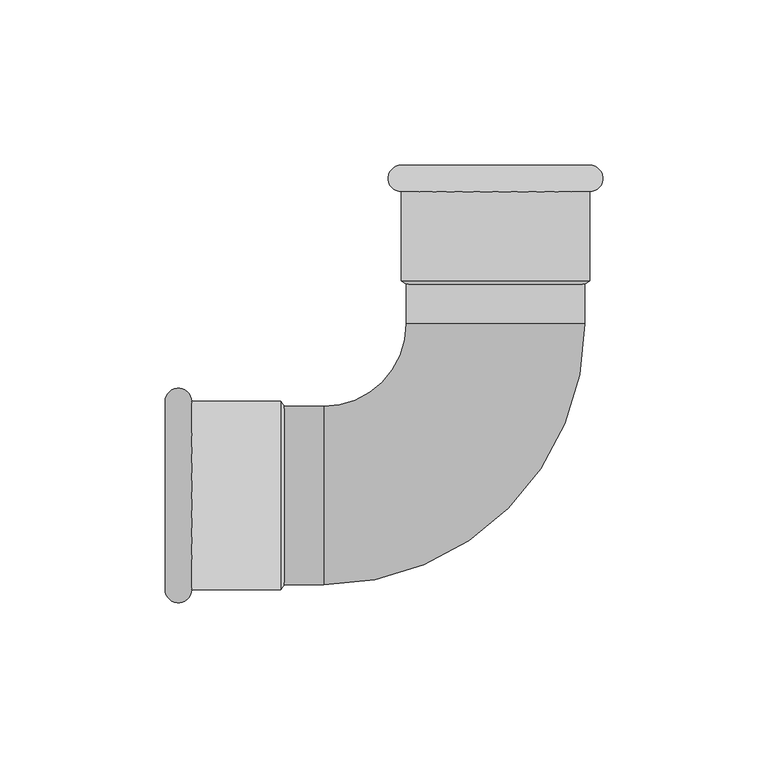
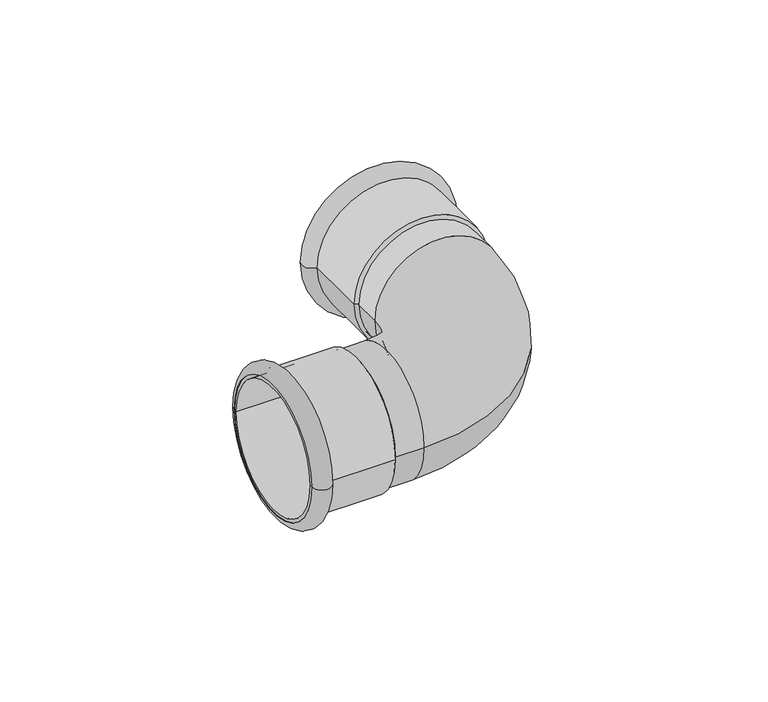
"""IFC4 building model written with IfcOpenShell, lengths in millimetres: pipe fitting geometry, NLRS_50_PIF_UN_Geberit Mapress Therm bocht_PRO_3207561 : DN10-100 / d12-108 - OD."""

from ifc_helpers import new_model, si_unit, point, frame, origin, place, context, project, spatial, polyline, circle_curve, ellipse_curve, trimmed, source, transform, mapped, element, save
from ifc_brep_helpers import plane_surface, cylinder_surface, revolved_surface, advanced_brep


def pipe_fitting_7fbc6128(model_context):
    return source(origin(), model_context, "Body", "AdvancedBrep", [
        advanced_brep(
        [(28.5, 100.0, 0.0), (-28.5, 100.0, 0.0), (-28.5, 92.0, 0.0), (28.5, 92.0, 0.0)],
        [
            (0, 1, circle_curve(frame((0.0, 100.0, 0.0), z_axis=(0.0, 1.0, 0.0), x_axis=(-1.0, 0.0, 0.0)), 28.5)),
            (1, 2),
            (2, 3, circle_curve(frame((0.0, 92.0, 0.0), z_axis=(0.0, -1.0, 0.0), x_axis=(-1.0, 0.0, 0.0)), 28.5)),
            (3, 0),
            (1, 0, circle_curve(frame((0.0, 100.0, 0.0), z_axis=(0.0, 1.0, 0.0), x_axis=(-1.0, 0.0, 0.0)), 28.5)),
            (3, 2, circle_curve(frame((0.0, 92.0, 0.0), z_axis=(0.0, -1.0, 0.0), x_axis=(-1.0, 0.0, 0.0)), 28.5)),
            (2, 1, circle_curve(frame((-28.5, 96.0, 0.0), z_axis=(0.0, 0.0, -1.0), x_axis=(0.0, 1.0, 0.0)), 4.0)),
            (0, 3, circle_curve(frame((28.5, 96.0, 0.0), z_axis=(0.0, 0.0, -1.0), x_axis=(0.0, 1.0, 0.0)), 4.0)),
        ],
        [
            revolved_surface(polyline([(-28.5, 92.0, 0.0), (-28.5, 100.0, 0.0)]), (0.0, 65.0, 0.0), (0.0, -1.0, 0.0)),
            revolved_surface(trimmed(ellipse_curve(frame((-28.5, 96.0, 0.0), z_axis=(0.0, 0.0, 1.0), x_axis=(0.0, 1.0, 0.0)), 4.0, 4.0), [point((-28.5, 100.0, 0.0))], [point((-28.5, 92.0, 0.0))], True, "CARTESIAN"), (0.0, 65.0, 0.0), (0.0, -1.0, 0.0)),
        ],
        [
            (0, [[1, 2, 3, 4]]),
            (0, [[5, -4, 6, -2]]),
            (1, [[-3, 7, -1, 8]]),
            (1, [[-6, -8, -5, -7]]),
        ],
    ),
        advanced_brep(
        [(27.0, 100.0, 0.0), (-27.0, 100.0, 0.0), (-27.0, 64.0, 0.0), (27.0, 64.0, 0.0), (28.5, 100.0, 0.0), (-28.5, 100.0, 0.0), (28.5, 65.0, 0.0), (-28.5, 65.0, 0.0)],
        [
            (0, 1, circle_curve(frame((0.0, 100.0, 0.0), z_axis=(0.0, 1.0, 0.0), x_axis=(-1.0, 0.0, 0.0)), 27.0)),
            (1, 2),
            (2, 3, circle_curve(frame((0.0, 64.0, 0.0), z_axis=(0.0, -1.0, 0.0), x_axis=(-1.0, 0.0, 0.0)), 27.0)),
            (3, 0),
            (1, 0, circle_curve(frame((0.0, 100.0, 0.0), z_axis=(0.0, 1.0, 0.0), x_axis=(-1.0, 0.0, 0.0)), 27.0)),
            (3, 2, circle_curve(frame((0.0, 64.0, 0.0), z_axis=(0.0, -1.0, 0.0), x_axis=(-1.0, 0.0, 0.0)), 27.0)),
            (4, 5, circle_curve(frame((0.0, 100.0, 0.0), z_axis=(0.0, 1.0, 0.0), x_axis=(-1.0, 0.0, 0.0)), 28.5)),
            (5, 1),
            (0, 4),
            (5, 4, circle_curve(frame((0.0, 100.0, 0.0), z_axis=(0.0, 1.0, 0.0), x_axis=(-1.0, 0.0, 0.0)), 28.5)),
            (6, 7, circle_curve(frame((0.0, 65.0, 0.0), z_axis=(0.0, 1.0, 0.0), x_axis=(-1.0, 0.0, 0.0)), 28.5)),
            (7, 5),
            (4, 6),
            (7, 6, circle_curve(frame((0.0, 65.0, 0.0), z_axis=(0.0, 1.0, 0.0), x_axis=(-1.0, 0.0, 0.0)), 28.5)),
            (2, 7),
            (6, 3),
        ],
        [
            revolved_surface(polyline([(-27.0, 64.0, 0.0), (-27.0, 100.0, 0.0)]), (0.0, 65.0, 0.0), (0.0, -1.0, 0.0)),
            plane_surface(frame((0.0, 100.0, 0.0), z_axis=(0.0, 1.0, 0.0), x_axis=(-1.0, 0.0, 0.0))),
            cylinder_surface(frame((0.0, 65.0, 0.0), z_axis=(0.0, -1.0, 0.0), x_axis=(-1.0, 0.0, 0.0)), 28.5),
            revolved_surface(polyline([(-28.5, 65.0, 0.0), (-27.0, 64.0, 0.0)]), (0.0, 65.0, 0.0), (0.0, -1.0, 0.0)),
        ],
        [
            (0, [[1, 2, 3, 4]]),
            (0, [[5, -4, 6, -2]]),
            (1, [[7, 8, -1, 9]]),
            (1, [[10, -9, -5, -8]]),
            (2, [[11, 12, -7, 13]]),
            (2, [[14, -13, -10, -12]]),
            (3, [[-3, 15, -11, 16]]),
            (3, [[-6, -16, -14, -15]]),
        ],
    ),
        advanced_brep(
        [(-100.0, 28.5, 0.0), (-100.0, -28.5, 0.0), (-92.0, -28.5, 0.0), (-92.0, 28.5, 0.0)],
        [
            (0, 1, circle_curve(frame((-100.0, 0.0, 0.0), z_axis=(-1.0, 0.0, 0.0), x_axis=(0.0, -1.0, 0.0)), 28.5)),
            (1, 2),
            (2, 3, circle_curve(frame((-92.0, 0.0, 0.0), z_axis=(1.0, 0.0, 0.0), x_axis=(0.0, -1.0, 0.0)), 28.5)),
            (3, 0),
            (1, 0, circle_curve(frame((-100.0, 0.0, 0.0), z_axis=(-1.0, 0.0, 0.0), x_axis=(0.0, -1.0, 0.0)), 28.5)),
            (3, 2, circle_curve(frame((-92.0, 0.0, 0.0), z_axis=(1.0, 0.0, 0.0), x_axis=(0.0, -1.0, 0.0)), 28.5)),
            (2, 1, circle_curve(frame((-96.0, -28.5, 0.0), z_axis=(0.0, 0.0, -1.0), x_axis=(-1.0, 0.0, 0.0)), 4.0)),
            (0, 3, circle_curve(frame((-96.0, 28.5, 0.0), z_axis=(0.0, 0.0, -1.0), x_axis=(-1.0, 0.0, 0.0)), 4.0)),
        ],
        [
            revolved_surface(polyline([(-92.0, -28.5, 0.0), (-100.0, -28.5, 0.0)]), (-65.0, 0.0, 0.0), (1.0, 0.0, 0.0)),
            revolved_surface(trimmed(ellipse_curve(frame((-96.0, -28.5, 0.0), z_axis=(0.0, 0.0, 1.0), x_axis=(-1.0, 0.0, 0.0)), 4.0, 4.0), [point((-100.0, -28.5, 0.0))], [point((-92.0, -28.5, 0.0))], True, "CARTESIAN"), (-65.0, 0.0, 0.0), (1.0, 0.0, 0.0)),
        ],
        [
            (0, [[1, 2, 3, 4]]),
            (0, [[5, -4, 6, -2]]),
            (1, [[-3, 7, -1, 8]]),
            (1, [[-6, -8, -5, -7]]),
        ],
    ),
        advanced_brep(
        [(-100.0, 27.0, 0.0), (-100.0, -27.0, 0.0), (-64.0, -27.0, 0.0), (-64.0, 27.0, 0.0), (-100.0, 28.5, 0.0), (-100.0, -28.5, 0.0), (-65.0, 28.5, 0.0), (-65.0, -28.5, 0.0)],
        [
            (0, 1, circle_curve(frame((-100.0, 0.0, 0.0), z_axis=(-1.0, 0.0, 0.0), x_axis=(0.0, -1.0, 0.0)), 27.0)),
            (1, 2),
            (2, 3, circle_curve(frame((-64.0, 0.0, 0.0), z_axis=(1.0, 0.0, 0.0), x_axis=(0.0, -1.0, 0.0)), 27.0)),
            (3, 0),
            (1, 0, circle_curve(frame((-100.0, 0.0, 0.0), z_axis=(-1.0, 0.0, 0.0), x_axis=(0.0, -1.0, 0.0)), 27.0)),
            (3, 2, circle_curve(frame((-64.0, 0.0, 0.0), z_axis=(1.0, 0.0, 0.0), x_axis=(0.0, -1.0, 0.0)), 27.0)),
            (4, 5, circle_curve(frame((-100.0, 0.0, 0.0), z_axis=(-1.0, 0.0, 0.0), x_axis=(0.0, -1.0, 0.0)), 28.5)),
            (5, 1),
            (0, 4),
            (5, 4, circle_curve(frame((-100.0, 0.0, 0.0), z_axis=(-1.0, 0.0, 0.0), x_axis=(0.0, -1.0, 0.0)), 28.5)),
            (6, 7, circle_curve(frame((-65.0, 0.0, 0.0), z_axis=(-1.0, 0.0, 0.0), x_axis=(0.0, -1.0, 0.0)), 28.5)),
            (7, 5),
            (4, 6),
            (7, 6, circle_curve(frame((-65.0, 0.0, 0.0), z_axis=(-1.0, 0.0, 0.0), x_axis=(0.0, -1.0, 0.0)), 28.5)),
            (2, 7),
            (6, 3),
        ],
        [
            revolved_surface(polyline([(-64.0, -27.0, 0.0), (-100.0, -27.0, 0.0)]), (-65.0, 0.0, 0.0), (1.0, 0.0, 0.0)),
            plane_surface(frame((-100.0, 0.0, 0.0), z_axis=(-1.0, 0.0, 0.0), x_axis=(0.0, -1.0, 0.0))),
            cylinder_surface(frame((-65.0, 0.0, 0.0), z_axis=(1.0, 0.0, 0.0), x_axis=(0.0, -1.0, 0.0)), 28.5),
            revolved_surface(polyline([(-65.0, -28.5, 0.0), (-64.0, -27.0, 0.0)]), (-65.0, 0.0, 0.0), (1.0, 0.0, 0.0)),
        ],
        [
            (0, [[1, 2, 3, 4]]),
            (0, [[5, -4, 6, -2]]),
            (1, [[7, 8, -1, 9]]),
            (1, [[10, -9, -5, -8]]),
            (2, [[11, 12, -7, 13]]),
            (2, [[14, -13, -10, -12]]),
            (3, [[-3, 15, -11, 16]]),
            (3, [[-6, -16, -14, -15]]),
        ],
    ),
        advanced_brep(
        [(-65.0, -27.0, 0.0), (-65.0, 27.0, 0.0), (-52.0, -27.0, 0.0), (-52.0, 27.0, 0.0), (-27.0, 52.0, 0.0), (27.0, 52.0, 0.0), (27.0, 65.0, 0.0), (-27.0, 65.0, 0.0)],
        [
            (0, 1, circle_curve(frame((-65.0, 0.0, 0.0), z_axis=(-1.0, 0.0, 0.0), x_axis=(0.0, 1.0, 0.0)), 27.0)),
            (1, 0, circle_curve(frame((-65.0, 0.0, 0.0), z_axis=(-1.0, 0.0, 0.0), x_axis=(0.0, 1.0, 0.0)), 27.0)),
            (0, 2),
            (2, 3, circle_curve(frame((-52.0, 0.0, 0.0), z_axis=(-1.0, 0.0, 0.0), x_axis=(0.0, 1.0, 0.0)), 27.0)),
            (3, 1),
            (3, 2, circle_curve(frame((-52.0, 0.0, 0.0), z_axis=(-1.0, 0.0, 0.0), x_axis=(0.0, 1.0, 0.0)), 27.0)),
            (4, 3, circle_curve(frame((-52.0, 52.0, 0.0), z_axis=(0.0, 0.0, -1.0), x_axis=(0.0, -1.0, 0.0)), 25.0)),
            (2, 5, circle_curve(frame((-52.0, 52.0, 0.0), z_axis=(0.0, 0.0, 1.0), x_axis=(0.0, -1.0, 0.0)), 79.0)),
            (5, 4, circle_curve(frame((0.0, 52.0, 0.0), z_axis=(0.0, -1.0, 0.0), x_axis=(-1.0, 0.0, 0.0)), 27.0)),
            (4, 5, circle_curve(frame((0.0, 52.0, 0.0), z_axis=(0.0, -1.0, 0.0), x_axis=(-1.0, 0.0, 0.0)), 27.0)),
            (6, 7, circle_curve(frame((0.0, 65.0, 0.0), z_axis=(0.0, 1.0, 0.0), x_axis=(-1.0, 0.0, 0.0)), 27.0)),
            (7, 6, circle_curve(frame((0.0, 65.0, 0.0), z_axis=(0.0, 1.0, 0.0), x_axis=(-1.0, 0.0, 0.0)), 27.0)),
            (5, 6),
            (7, 4),
        ],
        [
            plane_surface(frame((-65.0, 0.0, 0.0), z_axis=(-1.0, 0.0, 0.0), x_axis=(0.0, 0.0, 1.0))),
            cylinder_surface(frame((-65.0, 0.0, 0.0), z_axis=(-1.0, 0.0, 0.0), x_axis=(0.0, 1.0, 0.0)), 27.0),
            revolved_surface(trimmed(ellipse_curve(frame((-52.0, 0.0, 0.0), z_axis=(-1.0, 0.0, 0.0), x_axis=(0.0, 1.0, 0.0)), 27.0, 27.0), [point((-52.0, -27.0, 0.0))], [point((-52.0, 27.0, 0.0))], True, "CARTESIAN"), (-52.0, 52.0, 0.0), (0.0, 0.0, 1.0)),
            revolved_surface(trimmed(ellipse_curve(frame((-52.0, 0.0, 0.0), z_axis=(-1.0, 0.0, 0.0), x_axis=(0.0, 1.0, 0.0)), 27.0, 27.0), [point((-52.0, 27.0, 0.0))], [point((-52.0, -27.0, 0.0))], True, "CARTESIAN"), (-52.0, 52.0, 0.0), (0.0, 0.0, 1.0)),
            plane_surface(frame((0.0, 65.0, 0.0), z_axis=(0.0, 1.0, 0.0), x_axis=(0.0, 0.0, 1.0))),
            cylinder_surface(frame((0.0, 52.0, 0.0), z_axis=(0.0, -1.0, 0.0), x_axis=(-1.0, 0.0, 0.0)), 27.0),
        ],
        [
            (0, [[1, 2]]),
            (1, [[-1, 3, 4, 5]]),
            (1, [[-2, -5, 6, -3]]),
            (2, [[7, -4, 8, 9]]),
            (3, [[-8, -6, -7, 10]]),
            (4, [[11, 12]]),
            (5, [[-9, 13, -12, 14]]),
            (5, [[-10, -14, -11, -13]]),
        ],
    ),
    ])


if __name__ == "__main__":
    model = new_model("IFC4")
    model_context = context("Model", 3, world=origin())
    ifc_project = project(units=[si_unit("LENGTHUNIT", "METRE", prefix="MILLI")], contexts=[model_context])
    site = spatial("IfcSite", under=ifc_project)
    building = spatial("IfcBuilding", under=site)
    placement = place(None, origin())
    pipe_fitting_shape = pipe_fitting_7fbc6128(model_context)
    element("IfcPipeFitting", 1, ObjectType="NLRS_50_PIF_UN_Geberit Mapress Therm bocht_PRO_3207561 : DN10-100 / d12-108 - OD", at=placement, inside=building, context=model_context, shape_type="MappedRepresentation", body=[
        mapped(pipe_fitting_shape, transform((0.0, 0.0, 0.0), x_axis=(1.0, 0.0, 0.0), y_axis=(0.0, 1.0, 0.0), z_axis=(0.0, 0.0, 1.0))),
    ])
    save(model, "model.ifc")
